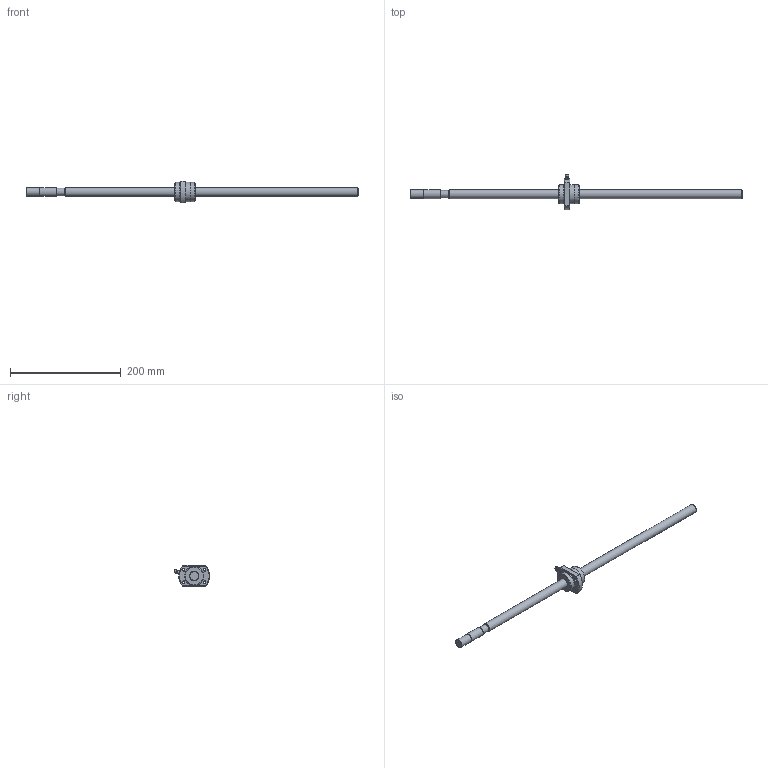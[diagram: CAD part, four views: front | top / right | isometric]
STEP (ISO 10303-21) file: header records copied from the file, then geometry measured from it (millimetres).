
FILE_DESCRIPTION((''),'2;1');
FILE_NAME('D:\製品 (図面)\カタログ用3D\ネジ関連\STEP形式\KBS(C)\KBS1632-600(H形).stp','2010-06-01T16:52:26',('Tsuchiya'),(''),'Autodesk Inventor 10','Autodesk Inventor 10','');
FILE_SCHEMA(('AUTOMOTIVE_DESIGN { 1 0 10303 214 1 1 1 1 }'));
Length unit declared in the file: millimetre
Products named in the file (3): KBS1632-600(H形); KBS1632-600(H形)1; KBS1632-600(H形)2
Assembly tree (2 placements, depth 2):
  KBS1632-600(H形)
    KBS1632-600(H形)1
    KBS1632-600(H形)2
Bounding box: 600 x 63.8 x 38 mm (x, y, z)
Volume: 155869.5 mm3; surface area: 40671.1 mm2
Topology: 3 solids, 3 shells, 51 faces, 102 edges, 63 vertices
Faces by surface type: plane 20, cylinder 12, cone 11, bspline 6, sphere 2
Full cylindrical faces by diameter (mm): 7 x1, 13.5 x1, 15.5 x1, 16 x3, 34.5 x2, 35 x2
Entity records: 1400 total; most frequent: CARTESIAN_POINT 382, DIRECTION 212, ORIENTED_EDGE 142, AXIS2_PLACEMENT_3D 99, EDGE_LOOP 94, EDGE_CURVE 71, VERTEX_POINT 57, FACE_OUTER_BOUND 51
